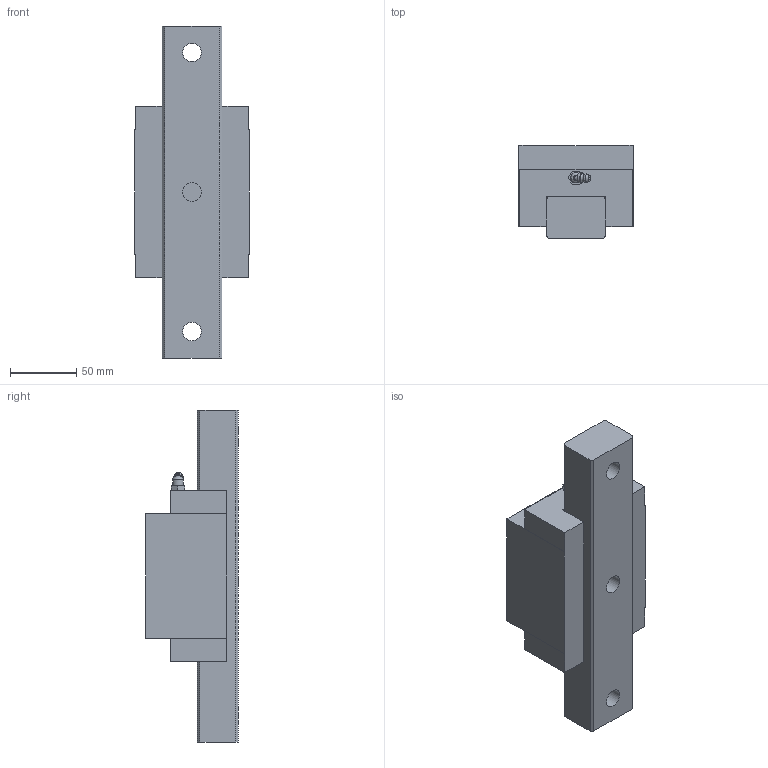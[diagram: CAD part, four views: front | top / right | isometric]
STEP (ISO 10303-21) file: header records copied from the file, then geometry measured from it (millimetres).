
FILE_DESCRIPTION((''),'2;1');
FILE_NAME('D:\製品 (図面)\カタログ用3D\変換ファイル\OZAK_3D-CAD(STEP形式)\Part2.-Linear Guides_ﾘﾆｱｶﾞｲﾄﾞ\07_Eco Guides_ｴｺｶﾞｲﾄﾞ\EGH\EGH45.stp','2010-12-22T11:13:18',('Tsuchiya'),(''),'Autodesk Inventor 10','Autodesk Inventor 10','');
FILE_SCHEMA(('AUTOMOTIVE_DESIGN { 1 0 10303 214 1 1 1 1 }'));
Length unit declared in the file: millimetre
Products named in the file (3): EGH45; EGH451; EGH452
Assembly tree (2 placements, depth 2):
  EGH45
    EGH451
    EGH452
Bounding box: 86 x 70 x 250 mm (x, y, z)
Volume: 809281.7 mm3; surface area: 98600.7 mm2
Topology: 3 solids, 3 shells, 78 faces, 178 edges, 119 vertices
Faces by surface type: plane 53, cylinder 15, bspline 4, cone 4, torus 1, sphere 1
Full cylindrical faces by diameter (mm): 7.75 x1, 8 x3, 10 x4, 14 x3, 20 x3
Entity records: 2291 total; most frequent: CARTESIAN_POINT 540, DIRECTION 344, ORIENTED_EDGE 306, EDGE_CURVE 153, AXIS2_PLACEMENT_3D 121, EDGE_LOOP 117, VERTEX_POINT 114, VECTOR 102
